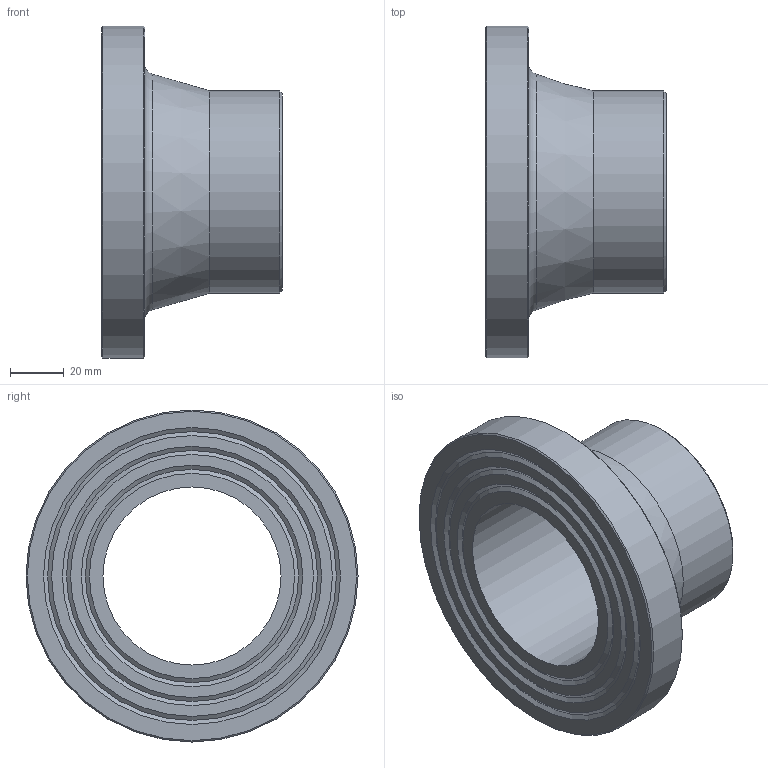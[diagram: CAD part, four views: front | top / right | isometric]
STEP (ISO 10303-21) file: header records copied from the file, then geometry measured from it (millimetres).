
FILE_DESCRIPTION(/* description */ ('Unknown'),/* implementation_level */ '2;1');
FILE_NAME(/* name */ 'CCP075B',/* time_stamp */ '2022-04-04T16:03:11+02:00',/* author */ ('Unknown'),/* organization */ ('Unknown'),/* preprocessor_version */ 'ST-DEVELOPER v18.1',/* originating_system */ 'Solid Edge',/* authorisation */ 'Unknown');
FILE_SCHEMA (('AUTOMOTIVE_DESIGN {1 0 10303 214 3 1 1}'));
Length unit declared in the file: millimetre
Products named in the file (1): CCP075B
Bounding box: 67 x 123 x 123 mm (x, y, z)
Volume: 206053.3 mm3; surface area: 48026.7 mm2
Topology: 1 solids, 1 shells, 20 faces, 35 edges, 21 vertices
Faces by surface type: cone 10, plane 6, cylinder 3, torus 1
Full cylindrical faces by diameter (mm): 66 x1, 75 x1, 123 x1
Entity records: 438 total; most frequent: DIRECTION 82, CARTESIAN_POINT 61, AXIS2_PLACEMENT_3D 41, ORIENTED_EDGE 40, EDGE_LOOP 40, FACE_BOUND 40, EDGE_CURVE 20, VERTEX_POINT 20
